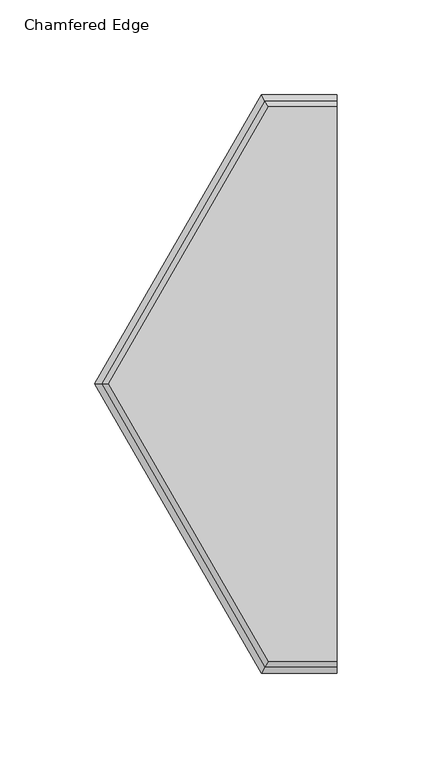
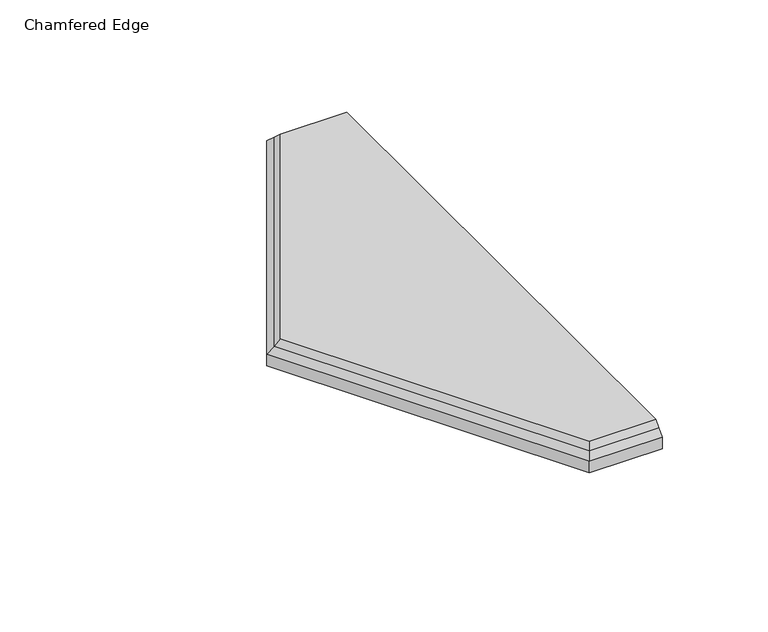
"""IFC4 building model written with IfcOpenShell, lengths in millimetres: proxy geometry, FilzFelt_Hex_Block : Chamfered Edge."""

from ifc_helpers import new_model, si_unit, origin, place, context, project, spatial, faceted_brep, source, transform, mapped, element, save


def chamfered_edge_a27fcddb(model_context):
    return source(origin(), model_context, "Body", "Brep", [
        faceted_brep([(-48.2369948, 149.0265625, 10.0210937), (-48.2369948, -149.0265625, 10.0210937), (-86.040526, -149.0265625, 10.0210937), (-172.081052, 0.0, 10.0210937), (-86.040526, 149.0265625, 10.0210937), (-48.2369948, -146.05, 12.9976563), (-48.2369948, 146.05, 12.9976563), (-84.3220068, 146.05, 12.9976563), (-168.6440136, 0.0, 12.9976563), (-84.3220068, -146.05, 12.9976563)], [[[0, 1, 2, 3, 4]], [[5, 6, 7, 8, 9]], [[4, 7, 6, 0]], [[7, 4, 3, 8]], [[8, 3, 2, 9]], [[9, 2, 1, 5]], [[1, 0, 6, 5]]]),
        faceted_brep([(-87.988181, -152.4, 0.0), (-175.976362, 0.0, 0.0), (-87.988181, 152.4, 0.0), (-48.2369948, 152.4, 0.0), (-48.2369948, -152.4, 0.0), (-48.2369948, -149.0265625, 10.0210937), (-48.2369948, 149.0265625, 10.0210937), (-86.040526, 149.0265625, 10.0210937), (-172.081052, 0.0, 10.0210937), (-86.040526, -149.0265625, 10.0210937), (-48.2369948, -152.4, 6.6476562), (-87.988181, -152.4, 6.6476562), (-175.976362, 0.0, 6.6476563), (-87.988181, 152.4, 6.6476563), (-48.2369948, 152.4, 6.6476563)], [[[0, 1, 2, 3, 4]], [[5, 6, 7, 8, 9]], [[0, 4, 10, 11]], [[1, 0, 11, 12]], [[2, 1, 12, 13]], [[3, 2, 13, 14]], [[13, 7, 6, 14]], [[7, 13, 12, 8]], [[8, 12, 11, 9]], [[9, 11, 10, 5]], [[4, 3, 14, 6, 5, 10]]]),
    ])


if __name__ == "__main__":
    model = new_model("IFC4")
    model_context = context("Model", 3, world=origin())
    ifc_project = project(units=[si_unit("LENGTHUNIT", "METRE", prefix="MILLI")], contexts=[model_context])
    site = spatial("IfcSite", under=ifc_project)
    building = spatial("IfcBuilding", under=site)
    placement = place(None, origin())
    chamfered_edge_shape = chamfered_edge_a27fcddb(model_context)
    element("IfcBuildingElementProxy", 1, Name="FilzFelt_Hex_Block : Chamfered Edge", ObjectType="FilzFelt_Hex_Block : Chamfered Edge", at=placement, inside=building, context=model_context, shape_type="MappedRepresentation", body=[
        mapped(chamfered_edge_shape, transform((0.0, 0.0, 0.0), x_axis=(1.0, 0.0, 0.0), y_axis=(0.0, 1.0, 0.0), z_axis=(0.0, 0.0, 1.0))),
    ])
    save(model, "model.ifc")
